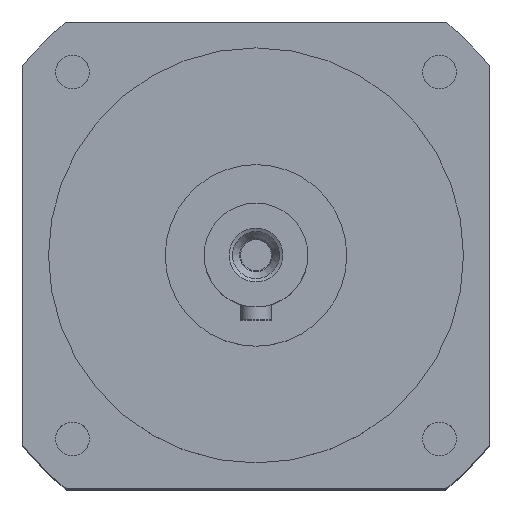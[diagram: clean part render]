
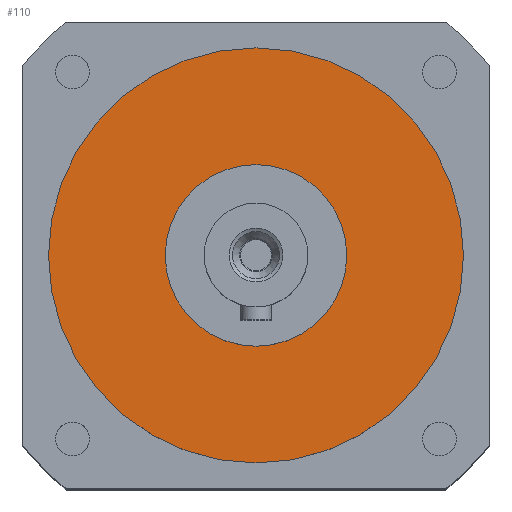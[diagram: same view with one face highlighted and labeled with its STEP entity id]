
A CAD part, top view. The second image highlights one B-rep face of the part: STEP entity #110.
In plain terms, the highlighted planar face has unit normal (0, 0, 1).
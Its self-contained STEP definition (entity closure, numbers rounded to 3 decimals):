
#110=ADVANCED_FACE('',(#814,#815),#828,.F.);
#800=EDGE_CURVE('',#806,#806,#801,.T.);
#801=CIRCLE('',#802,40.);
#802=AXIS2_PLACEMENT_3D('',#803,#804,#805);
#803=CARTESIAN_POINT('',(0.,0.,125.));
#804=DIRECTION('',(0.,0.,-1.));
#805=DIRECTION('',(0.,-1.,0.));
#806=VERTEX_POINT('',#807);
#807=CARTESIAN_POINT('',(0.,-40.,125.));
#814=FACE_OUTER_BOUND('',#816,.T.);
#815=FACE_BOUND('',#817,.T.);
#816=EDGE_LOOP('',(#818));
#817=EDGE_LOOP('',(#827));
#818=ORIENTED_EDGE('',*,*,#819,.T.);
#819=EDGE_CURVE('',#825,#825,#820,.T.);
#820=CIRCLE('',#821,17.5);
#821=AXIS2_PLACEMENT_3D('',#822,#823,#824);
#822=CARTESIAN_POINT('',(0.,0.,125.));
#823=DIRECTION('',(0.,0.,-1.));
#824=DIRECTION('',(0.,-1.,0.));
#825=VERTEX_POINT('',#826);
#826=CARTESIAN_POINT('',(0.,-17.5,125.));
#827=ORIENTED_EDGE('',*,*,#800,.F.);
#828=PLANE('',#829);
#829=AXIS2_PLACEMENT_3D('',#830,#831,#832);
#830=CARTESIAN_POINT('',(0.,0.,125.));
#831=DIRECTION('',(0.,0.,-1.));
#832=DIRECTION('',(-1.,0.,0.));
